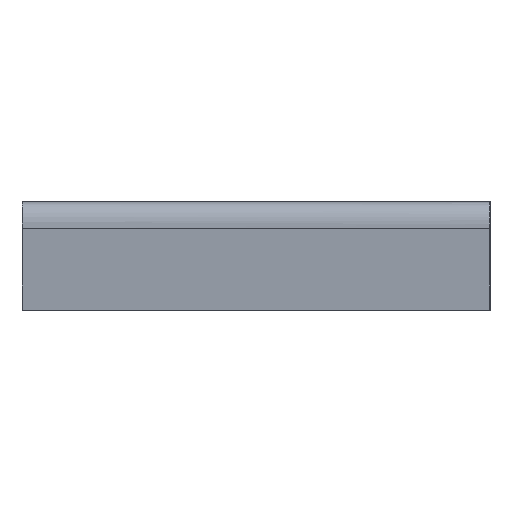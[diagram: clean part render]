
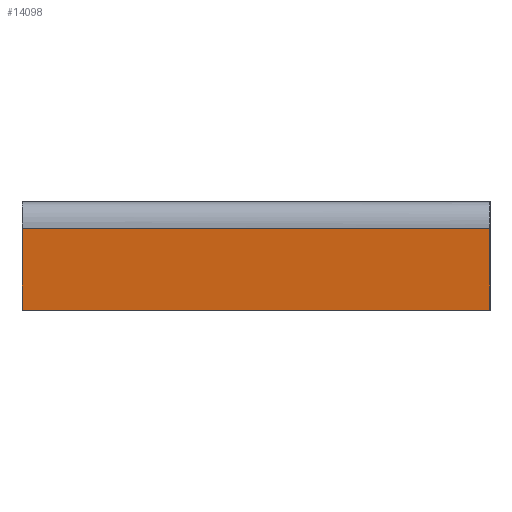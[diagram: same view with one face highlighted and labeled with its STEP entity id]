
A CAD part, left-side view. The second image highlights one B-rep face of the part: STEP entity #14098.
In plain terms, the highlighted planar face has unit normal (-0.996, 0, -0.091).
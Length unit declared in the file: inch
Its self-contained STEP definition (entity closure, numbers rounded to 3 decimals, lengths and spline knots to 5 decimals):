
#80 = EDGE_CURVE ( 'NONE', #2533, #12687, #18070, .T. ) ;
#499 = VERTEX_POINT ( 'NONE', #9349 ) ;
#2252 = LINE ( 'NONE', #17385, #15972 ) ;
#2351 = LINE ( 'NONE', #11452, #12630 ) ;
#2468 = DIRECTION ( 'NONE',  ( -0.091, 0., 0.996 ) ) ;
#2533 = VERTEX_POINT ( 'NONE', #14951 ) ;
#2619 = CARTESIAN_POINT ( 'NONE',  ( -26.24, 0., 1.34581 ) ) ;
#3108 = LINE ( 'NONE', #13802, #12715 ) ;
#5113 = VECTOR ( 'NONE', #14923, 39.37008 ) ;
#5436 = CARTESIAN_POINT ( 'NONE',  ( -26.24, 75.7649, 1.34581 ) ) ;
#6166 = DIRECTION ( 'NONE',  ( 0., -1., 0. ) ) ;
#6296 = ORIENTED_EDGE ( 'NONE', *, *, #19515, .T. ) ;
#8499 = EDGE_CURVE ( 'NONE', #499, #2533, #2252, .T. ) ;
#9349 = CARTESIAN_POINT ( 'NONE',  ( -25.875, 22.9375, -2.65625 ) ) ;
#9730 = VERTEX_POINT ( 'NONE', #11264 ) ;
#9929 = AXIS2_PLACEMENT_3D ( 'NONE', #5436, #11671, #2468 ) ;
#10191 = EDGE_LOOP ( 'NONE', ( #6296, #17078, #19025, #13109 ) ) ;
#10557 = CARTESIAN_POINT ( 'NONE',  ( -26.24, 75.7649, 1.34581 ) ) ;
#11264 = CARTESIAN_POINT ( 'NONE',  ( -25.875, 0., -2.65625 ) ) ;
#11452 = CARTESIAN_POINT ( 'NONE',  ( -26.24, 0., 1.34581 ) ) ;
#11671 = DIRECTION ( 'NONE',  ( 0.996, 0., 0.091 ) ) ;
#12630 = VECTOR ( 'NONE', #17478, 39.37008 ) ;
#12687 = VERTEX_POINT ( 'NONE', #2619 ) ;
#12715 = VECTOR ( 'NONE', #6166, 39.37008 ) ;
#13072 = PLANE ( 'NONE',  #9929 ) ;
#13109 = ORIENTED_EDGE ( 'NONE', *, *, #8499, .F. ) ;
#13207 = FACE_OUTER_BOUND ( 'NONE', #10191, .T. ) ;
#13802 = CARTESIAN_POINT ( 'NONE',  ( -25.875, 75.7649, -2.65625 ) ) ;
#14098 = ADVANCED_FACE ( 'NONE', ( #13207 ), #13072, .F. ) ;
#14233 = DIRECTION ( 'NONE',  ( -0.091, 0., 0.996 ) ) ;
#14923 = DIRECTION ( 'NONE',  ( 0., -1., 0. ) ) ;
#14951 = CARTESIAN_POINT ( 'NONE',  ( -26.24, 22.9375, 1.34581 ) ) ;
#15972 = VECTOR ( 'NONE', #14233, 39.37008 ) ;
#17078 = ORIENTED_EDGE ( 'NONE', *, *, #17325, .F. ) ;
#17325 = EDGE_CURVE ( 'NONE', #12687, #9730, #2351, .T. ) ;
#17385 = CARTESIAN_POINT ( 'NONE',  ( -26.24, 22.9375, 1.34581 ) ) ;
#17478 = DIRECTION ( 'NONE',  ( 0.091, 0., -0.996 ) ) ;
#18070 = LINE ( 'NONE', #10557, #5113 ) ;
#19025 = ORIENTED_EDGE ( 'NONE', *, *, #80, .F. ) ;
#19515 = EDGE_CURVE ( 'NONE', #499, #9730, #3108, .T. ) ;
